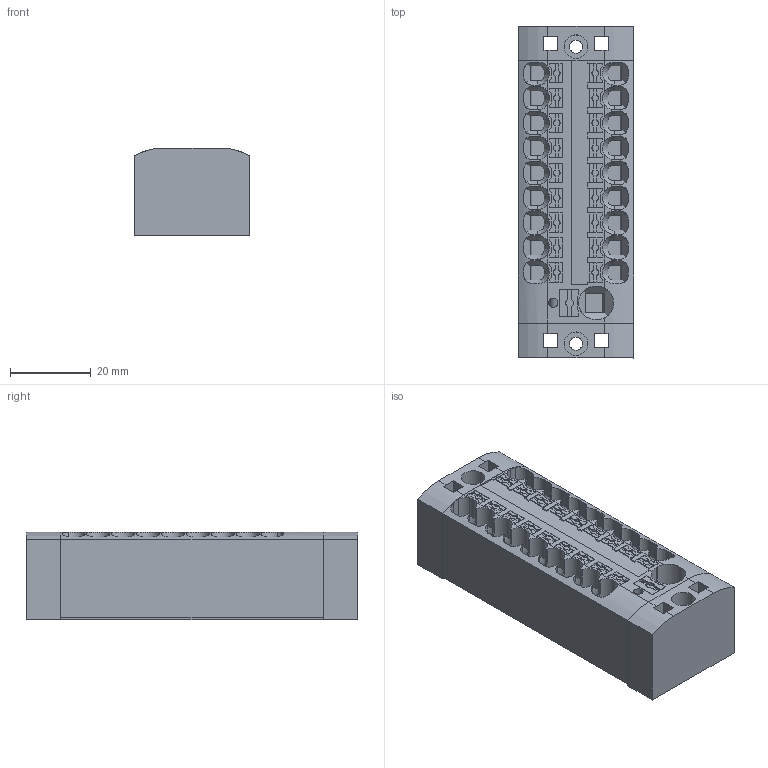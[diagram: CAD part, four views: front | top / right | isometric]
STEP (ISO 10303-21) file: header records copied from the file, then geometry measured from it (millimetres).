
FILE_DESCRIPTION(/* description */ ('Unknown'),/* implementation_level */ '2;1');
FILE_NAME(/* name */ 'PTFIX 10／18X4-F GN 1272481',/* time_stamp */ '2021-05-27T19:45:47+09:00',/* author */ ('Unknown'),/* organization */ ('Unknown'),/* preprocessor_version */ 'ST-DEVELOPER v16.7',/* originating_system */ 'Solid Edge',/* authorisation */ 'Unknown');
FILE_SCHEMA (('AUTOMOTIVE_DESIGN {1 0 10303 214 3 1 1}'));
Products named in the file (3): PTFIX 10／18X4-F GN 1272481; pxc_3274060_04_PTFIX-F_3D; pxc_3273908_01_PTFIX-10-18X4-GN_3D
Assembly tree (3 placements, depth 2):
  PTFIX 10／18X4-F GN 1272481
    pxc_3274060_04_PTFIX-F_3D  x2
    pxc_3273908_01_PTFIX-10-18X4-GN_3D
Bounding box: 28.6 x 81.95 x 21.7 mm (x, y, z)
Volume: 40640.1 mm3; surface area: 19066.1 mm2
Topology: 3 solids, 3 shells, 892 faces, 2599 edges, 1722 vertices
Faces by surface type: plane 678, cylinder 160, cone 54
Full cylindrical faces by diameter (mm): 2.3 x1, 3.2 x2, 5.8 x2
Entity records: 48065 total; most frequent: CARTESIAN_POINT 19003, ORIENTED_EDGE 5080, DIRECTION 4454, EDGE_CURVE 2540, LINE 1906, VECTOR 1906, VERTEX_POINT 1684, AXIS2_PLACEMENT_3D 1274
